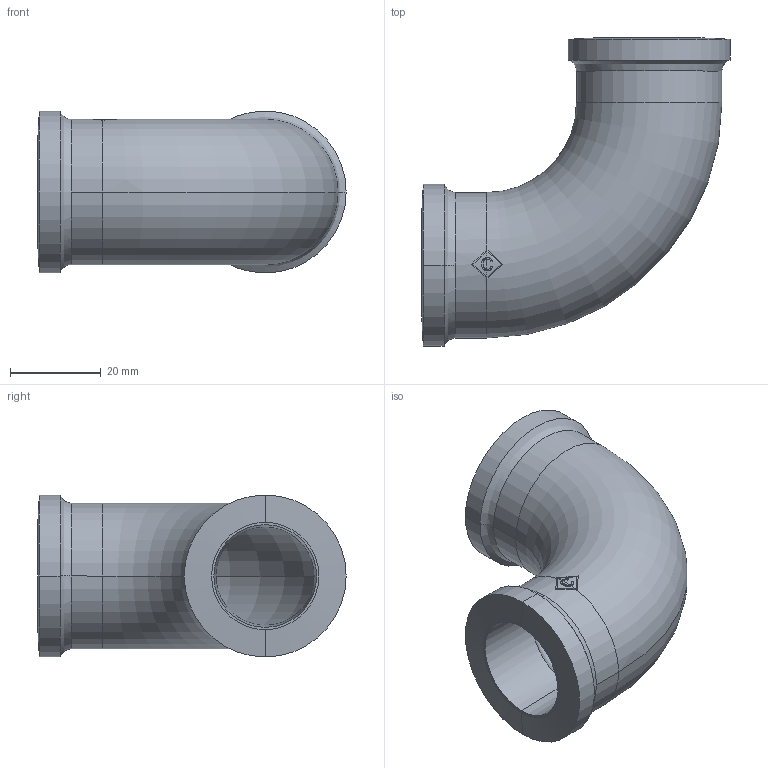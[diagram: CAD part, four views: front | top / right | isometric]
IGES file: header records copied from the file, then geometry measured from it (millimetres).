
Global section: file name: No Iges File Name specified; native system: AutoDesk Inventor R12.0; preprocessor: AutoDesk Inventor Iges Exporter R12.0; date: 20090917.093531; units: millimetre
Bounding box: 67.8 x 67.8 x 35.6 mm (x, y, z)
Volume: 28710.8 mm3; surface area: 16668.2 mm2
Topology: 1 solids, 1 shells, 54 faces, 145 edges, 93 vertices
Faces by surface type: bspline 14, cylinder 12, plane 12, revolution 6, torus 6, cone 4
